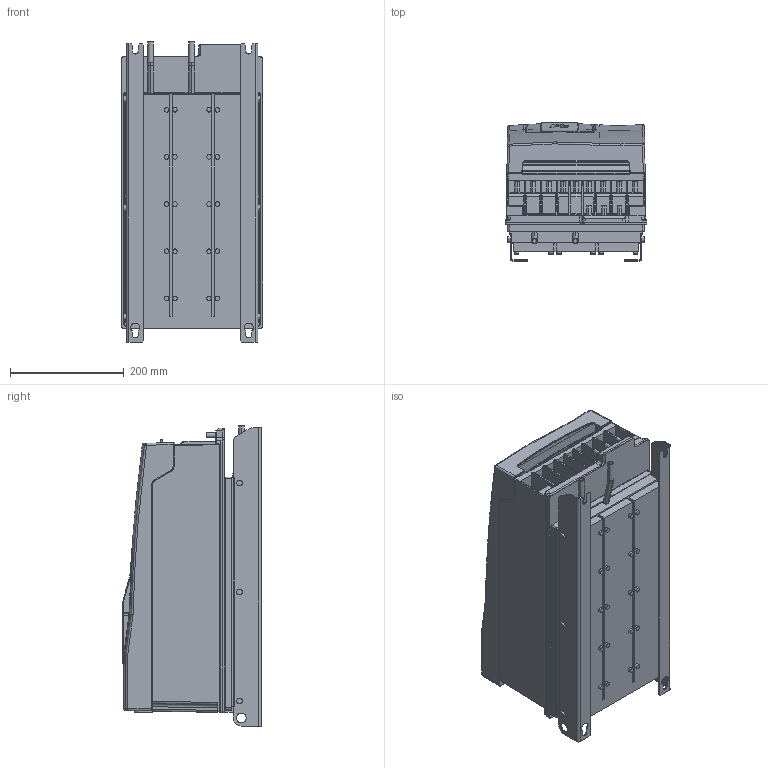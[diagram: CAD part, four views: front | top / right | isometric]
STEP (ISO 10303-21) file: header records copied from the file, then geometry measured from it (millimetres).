
FILE_DESCRIPTION (( 'STEP AP214' ), '1' );
FILE_NAME ('F6-6TW0-K000.STEP', '2022-02-09T07:24:53', ( '' ), ( '' ), 'SwSTEP 2.0', 'SolidWorks 2019', '' );
FILE_SCHEMA (( 'AUTOMOTIVE_DESIGN' ));
Length unit declared in the file: millimetre
Products named in the file (11): Kundenmodell^10059764_000; Kundenmodell^10061793_000; 10059764_000_Blindabdeckung (Kundenmodell); Kundenmodell^10049926_000; 10061793_000_Deckelbaugruppe F6-6 (Kundenmodell); Kundenmodell^10035735_000; 10035735_000_Kundenmodell; 10049926_000_Leistungsteil F6-6  TW1 (Kundenmodell); F6-6TW0-K000; 10027052_000_Geh„usebaugruppe F6-6 (Kundenmodell); Kundenmodell^10027052_000
Assembly tree (10 placements, depth 4):
  F6-6TW0-K000
    10049926_000_Leistungsteil F6-6  TW1 (Kundenmodell)
      Kundenmodell^10049926_000
    10027052_000_Geh„usebaugruppe F6-6 (Kundenmodell)
      10061793_000_Deckelbaugruppe F6-6 (Kundenmodell)
        Kundenmodell^10061793_000
      Kundenmodell^10027052_000
    10035735_000_Kundenmodell
      10059764_000_Blindabdeckung (Kundenmodell)
        Kundenmodell^10059764_000
      Kundenmodell^10035735_000
Bounding box: 249 x 243.9 x 528.5 mm (x, y, z)
Volume: 22310031.8 mm3; surface area: 1384157.7 mm2
Topology: 12 solids, 20 shells, 2885 faces, 7174 edges, 4290 vertices
Faces by surface type: cylinder 1064, plane 980, bspline 554, torus 117, sphere 108, cone 62
Entity records: 97656 total; most frequent: CARTESIAN_POINT 33858, ORIENTED_EDGE 14046, DIRECTION 12367, EDGE_CURVE 7023, AXIS2_PLACEMENT_3D 4464, VERTEX_POINT 4288, VECTOR 3439, LINE 3439
